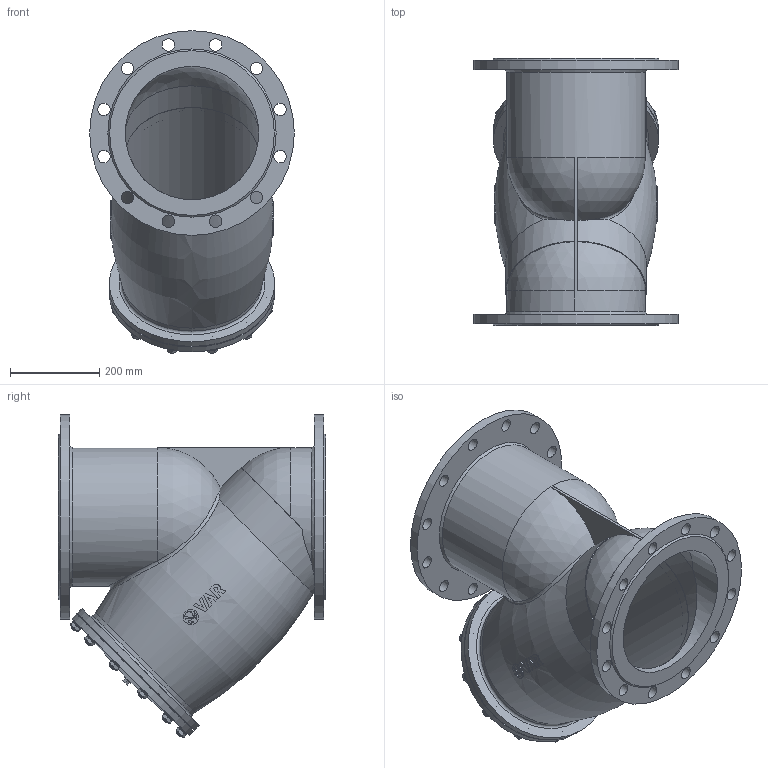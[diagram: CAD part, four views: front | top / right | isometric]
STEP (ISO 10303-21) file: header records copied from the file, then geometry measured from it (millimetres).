
FILE_DESCRIPTION(('STEP AP203'), '1');
FILE_NAME('VAR STRAINER ôèëüòð-ãðÿçåóëîâèòåëü', '', ('UNSPECIFIED'), ('UNSPECIFIED'), 'C3D Converter', 'C3D Toolkit', '');
FILE_SCHEMA(('CONFIG_CONTROL_DESIGN'));
Length unit declared in the file: millimetre
Assembly tree (41 placements, depth 2):
  (unnamed)
    (unnamed)
    (unnamed)
    (unnamed)  x12
    (unnamed)  x12
    (unnamed)  x12
    (unnamed)
    (unnamed)
    (unnamed)
Bounding box: 460 x 600 x 725 mm (x, y, z)
Volume: 12363028.8 mm3; surface area: 3218550 mm2
Topology: 42 solids, 42 shells, 690 faces, 1652 edges, 1078 vertices
Faces by surface type: plane 267, extrusion 172, cylinder 121, cone 88, torus 28, sphere 8, bspline 6
Full cylindrical faces by diameter (mm): 12 x36, 13 x12, 14 x14, 21 x1, 24 x12, 28 x24, 34.104 x1, 300 x6, 304 x3, 312 x1, 316 x1, 318 x1, 320 x2, 372 x2, 460 x2
Entity records: 31909 total; most frequent: CARTESIAN_POINT 18488, ORIENTED_EDGE 2102, DIRECTION 1569, EDGE_CURVE 1051, VERTEX_POINT 756, B_SPLINE_CURVE_WITH_KNOTS 679, EDGE_LOOP 667, AXIS2_PLACEMENT_3D 550
